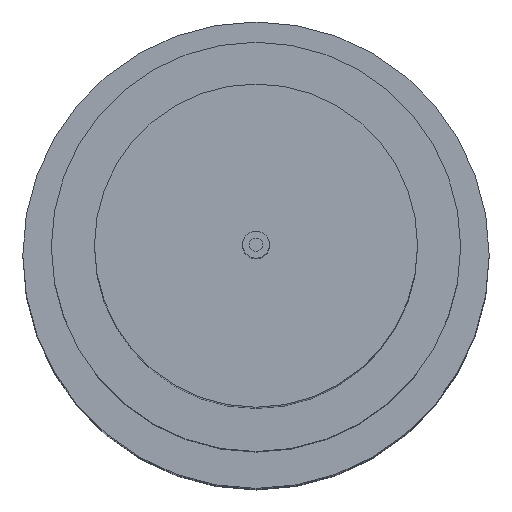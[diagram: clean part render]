
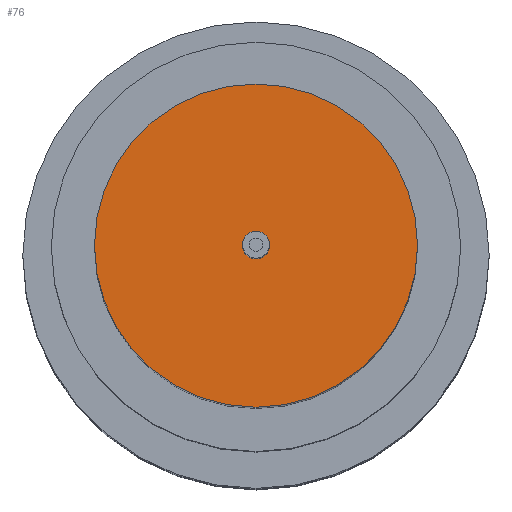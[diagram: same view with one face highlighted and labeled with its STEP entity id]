
A CAD part, top view. The second image highlights one B-rep face of the part: STEP entity #76.
In plain terms, the highlighted planar face has unit normal (0, 0, 1) as drawn and (-1, 0, 0) by its records, which use the part's own axes.
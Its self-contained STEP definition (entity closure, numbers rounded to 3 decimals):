
#50 = EDGE_CURVE ( 'NONE', #269, #268, #446, .T. ) ;
#61 = EDGE_LOOP ( 'NONE', ( #77, #78 ) ) ;
#76 = ADVANCED_FACE ( 'NONE', ( #403, #402 ), #401, .F. ) ;
#77 = ORIENTED_EDGE ( 'NONE', *, *, #213, .F. ) ;
#78 = ORIENTED_EDGE ( 'NONE', *, *, #151, .F. ) ;
#115 = EDGE_LOOP ( 'NONE', ( #116, #117 ) ) ;
#116 = ORIENTED_EDGE ( 'NONE', *, *, #50, .T. ) ;
#117 = ORIENTED_EDGE ( 'NONE', *, *, #264, .T. ) ;
#149 = VERTEX_POINT ( 'NONE', #784 ) ;
#151 = EDGE_CURVE ( 'NONE', #149, #152, #783, .T. ) ;
#152 = VERTEX_POINT ( 'NONE', #778 ) ;
#213 = EDGE_CURVE ( 'NONE', #152, #149, #687, .T. ) ;
#264 = EDGE_CURVE ( 'NONE', #268, #269, #573, .T. ) ;
#268 = VERTEX_POINT ( 'NONE', #563 ) ;
#269 = VERTEX_POINT ( 'NONE', #562 ) ;
#397 = DIRECTION ( 'NONE',  ( 0., 0., -1. ) ) ;
#398 = DIRECTION ( 'NONE',  ( 1., 0., 0. ) ) ;
#399 = CARTESIAN_POINT ( 'NONE',  ( 5., 0., 0. ) ) ;
#400 = AXIS2_PLACEMENT_3D ( 'NONE', #399, #398, #397 ) ;
#401 = PLANE ( 'NONE',  #400 ) ;
#402 = FACE_BOUND ( 'NONE', #115, .T. ) ;
#403 = FACE_OUTER_BOUND ( 'NONE', #61, .T. ) ;
#442 = DIRECTION ( 'NONE',  ( 0., 0., -1. ) ) ;
#443 = DIRECTION ( 'NONE',  ( 1., 0., 0. ) ) ;
#444 = CARTESIAN_POINT ( 'NONE',  ( 5., 0., 0. ) ) ;
#445 = AXIS2_PLACEMENT_3D ( 'NONE', #444, #443, #442 ) ;
#446 = CIRCLE ( 'NONE', #445, 0.125 ) ;
#562 = CARTESIAN_POINT ( 'NONE',  ( 5., 0., 0.125 ) ) ;
#563 = CARTESIAN_POINT ( 'NONE',  ( 5., 0., -0.125 ) ) ;
#570 = DIRECTION ( 'NONE',  ( 0., 0., -1. ) ) ;
#571 = DIRECTION ( 'NONE',  ( 1., 0., 0. ) ) ;
#572 = AXIS2_PLACEMENT_3D ( 'NONE', #578, #571, #570 ) ;
#573 = CIRCLE ( 'NONE', #572, 0.125 ) ;
#578 = CARTESIAN_POINT ( 'NONE',  ( 5., 0., 0. ) ) ;
#683 = DIRECTION ( 'NONE',  ( 0., 0., -1. ) ) ;
#684 = DIRECTION ( 'NONE',  ( 1., 0., 0. ) ) ;
#685 = CARTESIAN_POINT ( 'NONE',  ( 5., 0., 0. ) ) ;
#686 = AXIS2_PLACEMENT_3D ( 'NONE', #685, #684, #683 ) ;
#687 = CIRCLE ( 'NONE', #686, 1.5 ) ;
#778 = CARTESIAN_POINT ( 'NONE',  ( 5., 0., 1.5 ) ) ;
#779 = DIRECTION ( 'NONE',  ( 0., 0., -1. ) ) ;
#780 = DIRECTION ( 'NONE',  ( 1., 0., 0. ) ) ;
#781 = CARTESIAN_POINT ( 'NONE',  ( 5., 0., 0. ) ) ;
#782 = AXIS2_PLACEMENT_3D ( 'NONE', #781, #780, #779 ) ;
#783 = CIRCLE ( 'NONE', #782, 1.5 ) ;
#784 = CARTESIAN_POINT ( 'NONE',  ( 5., 0., -1.5 ) ) ;
